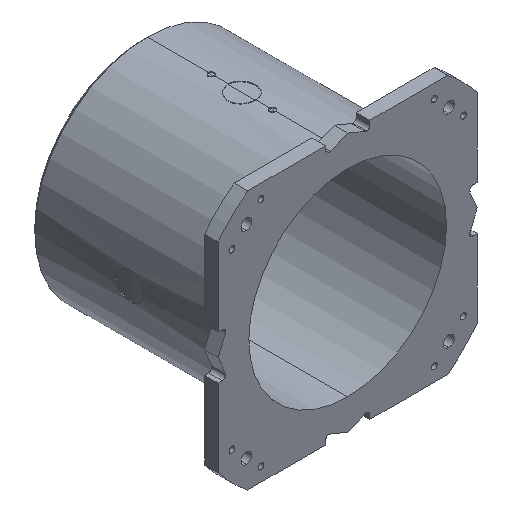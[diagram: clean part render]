
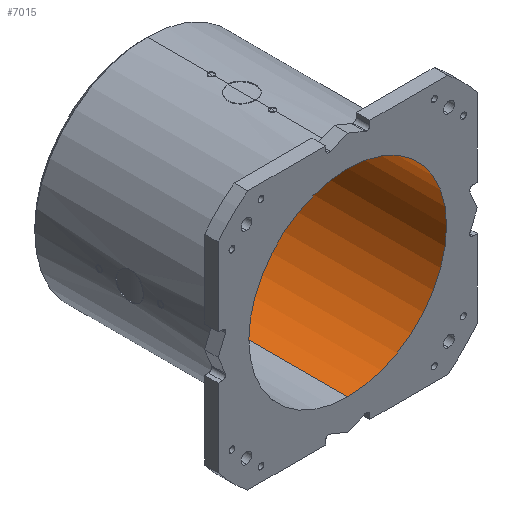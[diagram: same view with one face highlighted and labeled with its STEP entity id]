
A CAD part, isometric view. The second image highlights one B-rep face of the part: STEP entity #7015.
In plain terms, the highlighted cylindrical face has radius 145 mm (diameter 290 mm), a partial arc.
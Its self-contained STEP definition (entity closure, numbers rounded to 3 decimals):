
#102 = ORIENTED_EDGE ( 'NONE', *, *, #4893, .T. ) ;
#367 = AXIS2_PLACEMENT_3D ( 'NONE', #5999, #6075, #4870 ) ;
#532 = CARTESIAN_POINT ( 'NONE',  ( 0., 0., 145. ) ) ;
#666 = CYLINDRICAL_SURFACE ( 'NONE', #367, 145. ) ;
#797 = DIRECTION ( 'NONE',  ( 0., 1., 0. ) ) ;
#813 = ORIENTED_EDGE ( 'NONE', *, *, #1042, .F. ) ;
#894 = VERTEX_POINT ( 'NONE', #2369 ) ;
#1042 = EDGE_CURVE ( 'NONE', #894, #3145, #2196, .T. ) ;
#1137 = EDGE_CURVE ( 'NONE', #3145, #4115, #6082, .T. ) ;
#1502 = CARTESIAN_POINT ( 'NONE',  ( 0., 0., 0. ) ) ;
#1687 = AXIS2_PLACEMENT_3D ( 'NONE', #1502, #797, #4347 ) ;
#2196 = CIRCLE ( 'NONE', #1687, 145. ) ;
#2369 = CARTESIAN_POINT ( 'NONE',  ( 0., 0., 145. ) ) ;
#2430 = CARTESIAN_POINT ( 'NONE',  ( 0., 282., -145. ) ) ;
#3145 = VERTEX_POINT ( 'NONE', #4544 ) ;
#3472 = AXIS2_PLACEMENT_3D ( 'NONE', #5596, #5011, #7410 ) ;
#3550 = ORIENTED_EDGE ( 'NONE', *, *, #3742, .T. ) ;
#3678 = VECTOR ( 'NONE', #5971, 1000. ) ;
#3742 = EDGE_CURVE ( 'NONE', #4984, #4115, #7610, .T. ) ;
#4115 = VERTEX_POINT ( 'NONE', #2430 ) ;
#4209 = FACE_OUTER_BOUND ( 'NONE', #6939, .T. ) ;
#4347 = DIRECTION ( 'NONE',  ( 0., 0., 1. ) ) ;
#4544 = CARTESIAN_POINT ( 'NONE',  ( 0., 0., -145. ) ) ;
#4654 = CARTESIAN_POINT ( 'NONE',  ( 0., 282., 145. ) ) ;
#4870 = DIRECTION ( 'NONE',  ( 0., 0., 1. ) ) ;
#4893 = EDGE_CURVE ( 'NONE', #894, #4984, #6648, .T. ) ;
#4984 = VERTEX_POINT ( 'NONE', #4654 ) ;
#5011 = DIRECTION ( 'NONE',  ( 0., 1., 0. ) ) ;
#5596 = CARTESIAN_POINT ( 'NONE',  ( 0., 282., 0. ) ) ;
#5971 = DIRECTION ( 'NONE',  ( 0., 1., 0. ) ) ;
#5999 = CARTESIAN_POINT ( 'NONE',  ( 0., 0., 0. ) ) ;
#6018 = DIRECTION ( 'NONE',  ( 0., 1., 0. ) ) ;
#6075 = DIRECTION ( 'NONE',  ( 0., 1., 0. ) ) ;
#6082 = LINE ( 'NONE', #6713, #3678 ) ;
#6086 = ORIENTED_EDGE ( 'NONE', *, *, #1137, .F. ) ;
#6648 = LINE ( 'NONE', #532, #6814 ) ;
#6713 = CARTESIAN_POINT ( 'NONE',  ( 0., 0., -145. ) ) ;
#6814 = VECTOR ( 'NONE', #6018, 1000. ) ;
#6939 = EDGE_LOOP ( 'NONE', ( #6086, #813, #102, #3550 ) ) ;
#7015 = ADVANCED_FACE ( 'NONE', ( #4209 ), #666, .F. ) ;
#7410 = DIRECTION ( 'NONE',  ( 0., 0., 1. ) ) ;
#7610 = CIRCLE ( 'NONE', #3472, 145. ) ;
